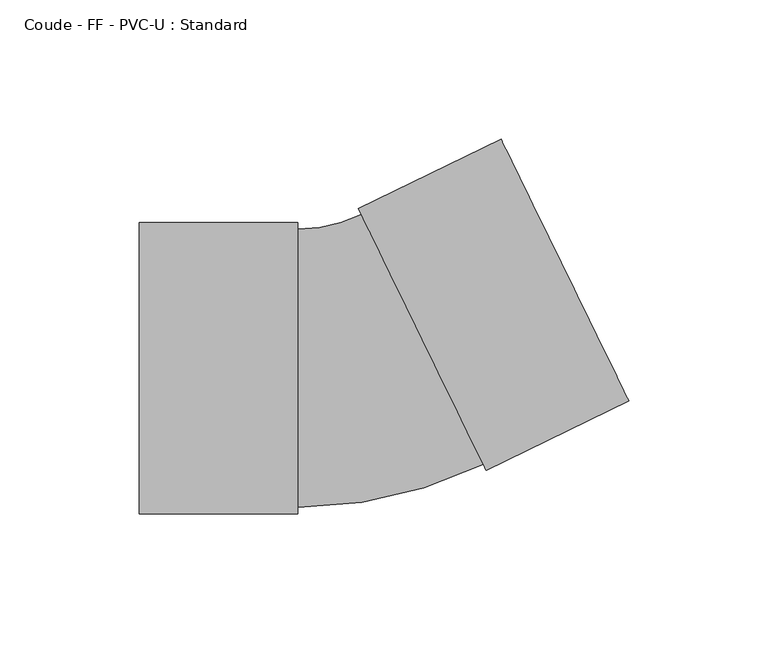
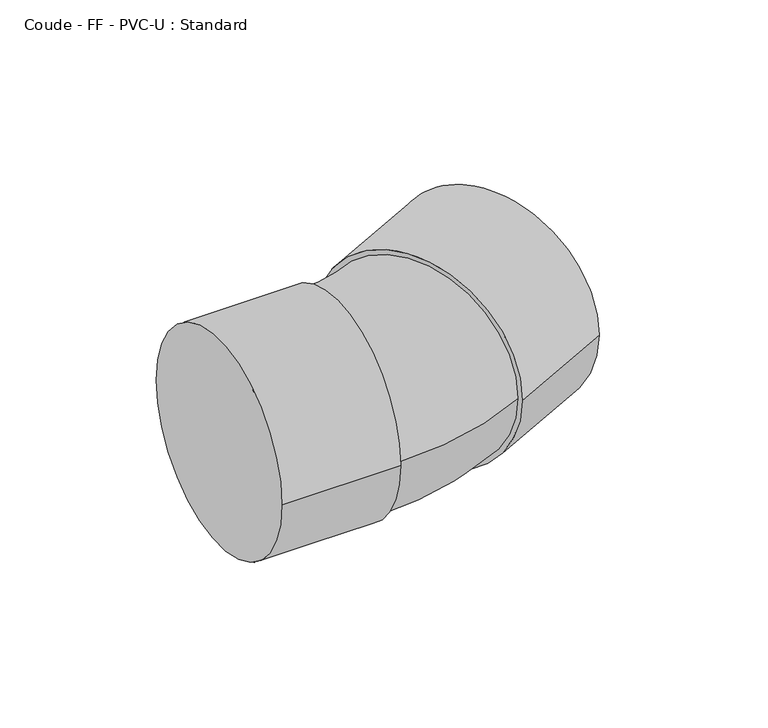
"""IFC4 building model written with IfcOpenShell, lengths in millimetres: pipe fitting geometry, Coude - FF - PVC-U : Standard."""

from ifc_helpers import new_model, si_unit, point, frame, origin, place, context, project, spatial, circle_curve, ellipse_curve, trimmed, source, transform, mapped, element, save
from ifc_brep_helpers import plane_surface, cylinder_surface, revolved_surface, advanced_brep


def coude_ff_pvc_u_standard_f983a892(model_context):
    return source(origin(), model_context, "Body", "AdvancedBrep", [
        advanced_brep(
        [(-80.5, -52.3, 0.0), (-80.5, 52.3, 0.0), (-23.5, -52.3, 0.0), (-23.5, 52.3, 0.0), (-23.5, -50.0, 0.0), (-23.5, 50.0, 0.0), (-0.7980771, 55.2414072, 0.0), (43.0409572, -34.6370611, 0.0), (44.049255, -36.7042658, 0.0), (-1.8063749, 57.308612, 0.0), (95.279982, -11.7160162, 0.0), (49.424352, 82.2968616, 0.0)],
        [
            (0, 1, circle_curve(frame((-80.5, 0.0, 0.0), z_axis=(-1.0, 0.0, 0.0), x_axis=(0.0, 1.0, 0.0)), 52.3)),
            (1, 0, circle_curve(frame((-80.5, 0.0, 0.0), z_axis=(-1.0, 0.0, 0.0), x_axis=(0.0, 1.0, 0.0)), 52.3)),
            (2, 3, circle_curve(frame((-23.5, 0.0, 0.0), z_axis=(1.0, 0.0, 0.0), x_axis=(0.0, 1.0, 0.0)), 52.3)),
            (3, 2, circle_curve(frame((-23.5, 0.0, 0.0), z_axis=(1.0, 0.0, 0.0), x_axis=(0.0, 1.0, 0.0)), 52.3)),
            (4, 5, circle_curve(frame((-23.5, 0.0, 0.0), z_axis=(-1.0, 0.0, 0.0), x_axis=(0.0, 1.0, 0.0)), 50.0)),
            (5, 4, circle_curve(frame((-23.5, 0.0, 0.0), z_axis=(-1.0, 0.0, 0.0), x_axis=(0.0, 1.0, 0.0)), 50.0)),
            (0, 2),
            (3, 1),
            (6, 5, circle_curve(frame((-23.5, 101.7847237, 0.0), z_axis=(0.0, 0.0, -1.0), x_axis=(0.0, -1.0, 0.0)), 51.7847237)),
            (4, 7, circle_curve(frame((-23.5, 101.7847237, 0.0), z_axis=(0.0, 0.0, 1.0), x_axis=(0.0, -1.0, 0.0)), 151.7847237)),
            (7, 6, circle_curve(frame((21.12144, 10.3021731, 0.0), z_axis=(-0.8987846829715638, -0.4383903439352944, 0.0), x_axis=(-0.4383903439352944, 0.8987846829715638, 0.0)), 50.0)),
            (6, 7, circle_curve(frame((21.12144, 10.3021731, 0.0), z_axis=(-0.8987846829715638, -0.4383903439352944, 0.0), x_axis=(-0.4383903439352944, 0.8987846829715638, 0.0)), 50.0)),
            (8, 9, circle_curve(frame((21.12144, 10.3021731, 0.0), z_axis=(-0.8987846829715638, -0.4383903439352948, 0.0), x_axis=(-0.4383903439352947, 0.8987846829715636, 0.0)), 52.3)),
            (9, 8, circle_curve(frame((21.12144, 10.3021731, 0.0), z_axis=(-0.8987846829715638, -0.4383903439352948, 0.0), x_axis=(-0.4383903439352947, 0.8987846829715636, 0.0)), 52.3)),
            (10, 11, circle_curve(frame((72.352167, 35.2904227, 0.0), z_axis=(0.8987846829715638, 0.4383903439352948, 0.0), x_axis=(-0.4383903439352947, 0.8987846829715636, 0.0)), 52.3)),
            (11, 10, circle_curve(frame((72.352167, 35.2904227, 0.0), z_axis=(0.8987846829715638, 0.4383903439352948, 0.0), x_axis=(-0.4383903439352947, 0.8987846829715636, 0.0)), 52.3)),
            (8, 10),
            (11, 9),
        ],
        [
            plane_surface(frame((-80.5, 0.0, 0.0), z_axis=(-1.0, 0.0, 0.0), x_axis=(0.0, 0.0, 1.0))),
            plane_surface(frame((-23.5, 0.0, 0.0), z_axis=(1.0, 0.0, 0.0), x_axis=(0.0, 0.0, 1.0))),
            cylinder_surface(frame((-80.5, 0.0, 0.0), z_axis=(-1.0, 0.0, 0.0), x_axis=(0.0, 1.0, 0.0)), 52.3),
            revolved_surface(trimmed(ellipse_curve(frame((-23.5, 0.0, 0.0), z_axis=(-1.0, 0.0, 0.0), x_axis=(0.0, 1.0, 0.0)), 50.0, 50.0), [point((-23.5, -50.0, 0.0))], [point((-23.5, 50.0, 0.0))], True, "CARTESIAN"), (-23.5, 101.7847237, 0.0), (0.0, 0.0, 1.0)),
            revolved_surface(trimmed(ellipse_curve(frame((-23.5, 0.0, 0.0), z_axis=(-1.0, 0.0, 0.0), x_axis=(0.0, 1.0, 0.0)), 50.0, 50.0), [point((-23.5, 50.0, 0.0))], [point((-23.5, -50.0, 0.0))], True, "CARTESIAN"), (-23.5, 101.7847237, 0.0), (0.0, 0.0, 1.0)),
            plane_surface(frame((21.12144, 10.3021731, 0.0), z_axis=(-0.8987846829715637, -0.43839034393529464, 0.0), x_axis=(0.0, 0.0, 1.0))),
            plane_surface(frame((72.352167, 35.2904227, 0.0), z_axis=(0.8987846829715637, 0.43839034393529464, 0.0), x_axis=(0.0, 0.0, 1.0))),
            cylinder_surface(frame((21.12144, 10.3021731, 0.0), z_axis=(-0.8987846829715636, -0.4383903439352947, 0.0), x_axis=(-0.4383903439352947, 0.8987846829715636, 0.0)), 52.3),
        ],
        [
            (0, [[1, 2]]),
            (1, [[3, 4], [5, 6]]),
            (2, [[-1, 7, -4, 8]]),
            (2, [[-2, -8, -3, -7]]),
            (3, [[9, -5, 10, 11]]),
            (4, [[-9, 12, -10, -6]]),
            (5, [[13, 14], [-11, -12]]),
            (6, [[15, 16]]),
            (7, [[-13, 17, -16, 18]]),
            (7, [[-14, -18, -15, -17]]),
        ],
    ),
    ])


if __name__ == "__main__":
    model = new_model("IFC4")
    model_context = context("Model", 3, world=origin())
    ifc_project = project(units=[si_unit("LENGTHUNIT", "METRE", prefix="MILLI")], contexts=[model_context])
    site = spatial("IfcSite", under=ifc_project)
    building = spatial("IfcBuilding", under=site)
    placement = place(None, origin())
    coude_ff_pvc_u_standard_shape = coude_ff_pvc_u_standard_f983a892(model_context)
    element("IfcPipeFitting", 1, ObjectType="Coude - FF - PVC-U : Standard", at=placement, inside=building, context=model_context, shape_type="MappedRepresentation", body=[
        mapped(coude_ff_pvc_u_standard_shape, transform((0.0, 0.0, 0.0), x_axis=(1.0, 0.0, 0.0), y_axis=(0.0, 1.0, 0.0), z_axis=(0.0, 0.0, 1.0))),
    ])
    save(model, "model.ifc")
